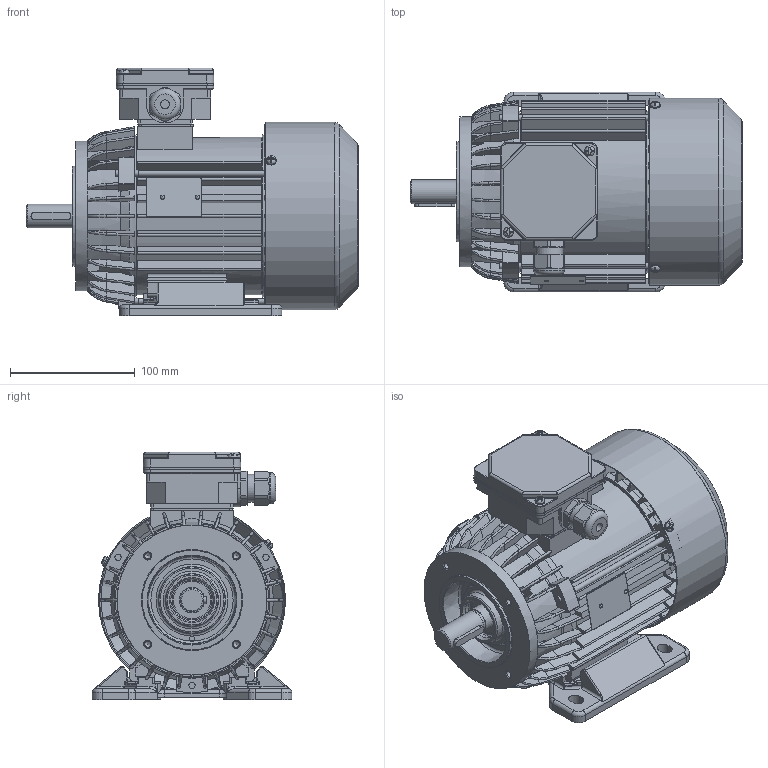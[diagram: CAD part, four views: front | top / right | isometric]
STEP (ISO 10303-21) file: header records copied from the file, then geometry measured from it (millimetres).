
FILE_DESCRIPTION( ( 'Unknown' ), '1' );
FILE_NAME( 'G:/Poczta Tk-1/STP/w.m.80/Sh80/SLh80-.A2.stp', 'Unknown', ( 'K. Szlosek' ), ( 'BESEL S.A.' ), 'PSStep 17.0.49', 'Unknown', ' ' );
FILE_SCHEMA( ( 'AUTOMOTIVE_DESIGN { 1 0 10303 214 1 1 1 1 }' ) );
Length unit declared in the file: millimetre
Products named in the file (30): skrznka zaciskowa trójfazowa ; K4-2820 Uszczelka nr 2 Sh71,80; Dławnica M20x1,5; K2-0859 Podstawa skrzynki 6-cio zaciskowej; K2-0860 Pokrywka skrzynki zaciskowej; Assem1; K1-1257 Kadłub S(E,M)h80-A i B; K2-2027 Tarcza łożyskowa P S(E,M)h80-.A,C; K4-2320 Uszczelka nr 1 Sh71,80; Wkręt samogwintujący M4x16; Nitokołek A 2x6; Wkręt samogwintujący M4x8; K3-7038 wał standard Sh80-A; Wpust A6x6x32; K3-4025 Przewietrznik Sg,h80; K4-4489 Osłona przewietrznika Sh80,90-A,C; K1-1261 Tarcza kołnierzowa B14_2 w.m. 80; Tabliczka znamionowa 32x44; Łożysko 6204; Śruba ściągająca E_M5x130; K1-0437 Łapa Sh80-.. 
Assembly tree (45 placements, depth 3):
  Assem1
    K1-1257 Kadłub S(E,M)h80-A i B
    K2-2027 Tarcza łożyskowa P S(E,M)h80-.A,C
    K4-2320 Uszczelka nr 1 Sh71,80
    Wkręt samogwintujący M4x16  x2
    Nitokołek A 2x6  x2
    Wkręt samogwintujący M4x8  x3
    K3-7038 wał standard Sh80-A
    Wpust A6x6x32
    K3-4025 Przewietrznik Sg,h80
    K4-4489 Osłona przewietrznika Sh80,90-A,C
    K1-1261 Tarcza kołnierzowa B14_2 w.m. 80
    Tabliczka znamionowa 32x44
    Łożysko 6204  x2
    Łożysko 6204  x2
    Łożysko 6204  x2
    Łożysko 6204  x2
    Łożysko 6204  x2
    Łożysko 6204  x2
    Łożysko 6204  x2
    Łożysko 6204  x2
    Łożysko 6204  x2
    Łożysko 6204  x2
    Śruba ściągająca E_M5x130  x3
    K1-0437 Łapa Sh80-.. 
    skrznka zaciskowa trójfazowa 
      K4-2820 Uszczelka nr 2 Sh71,80
      Dławnica M20x1,5
      K2-0859 Podstawa skrzynki 6-cio zaciskowej
      K2-0860 Pokrywka skrzynki zaciskowej
Bounding box: 265.8 x 160 x 198.5 mm (x, y, z)
Volume: 950320.7 mm3; surface area: 556139.2 mm2
Topology: 44 solids, 60 shells, 2821 faces, 7936 edges, 5074 vertices
Faces by surface type: plane 1331, cylinder 889, bspline 297, torus 147, cone 123, sphere 34
Full cylindrical faces by diameter (mm): 2 x2, 2.4 x2, 3 x1, 3.7 x11, 4 x6, 4.2 x3, 4.5 x1, 4.6 x3, 4.8 x4, 5 x11, 5.5 x3, 6.5 x4, 7 x1, 8 x9, 18.376 x1, 18.38 x1, 18.6 x1, 19 x1, 19.3 x1, 19.5 x2, 19.9 x1, 20 x5, 20.3 x2, 20.4 x4, 22.3 x1, 25 x1, 25.5 x1, 25.65 x1, 26 x3, 26.05 x1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
Entity records: 135360 total; most frequent: CARTESIAN_POINT 47566, ORIENTED_EDGE 14140, DIRECTION 13102, EDGE_CURVE 7070, AXIS2_PLACEMENT_3D 4760, VERTEX_POINT 4712, LINE 3582, VECTOR 3582
